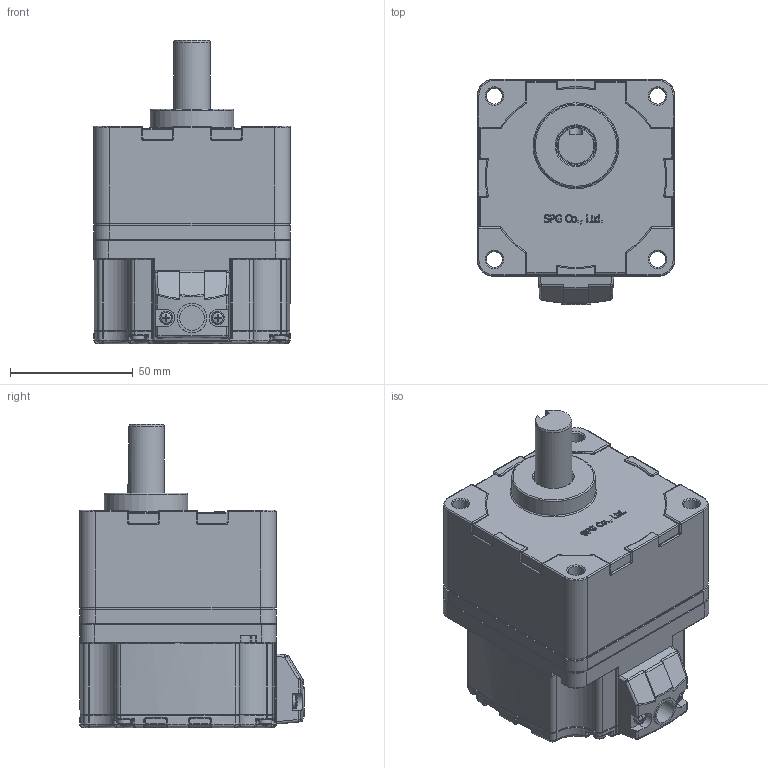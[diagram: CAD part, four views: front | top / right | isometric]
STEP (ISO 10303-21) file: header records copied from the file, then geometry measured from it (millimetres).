
FILE_DESCRIPTION((''),'2;1');
FILE_NAME('C:\Documents and Settings\Administrator\바탕 화면\BLDC 3D FILE\GEARED MOTOR\80-RATIO 30~100.stp','2014-06-19T16:07:15',('kdhkdh'),(''),'Autodesk Inventor 2011','Autodesk Inventor 2011','');
FILE_SCHEMA(('AUTOMOTIVE_DESIGN { 1 0 10303 214 1 1 1 1 }'));
Length unit declared in the file: millimetre
Products named in the file (1): 부품1
Bounding box: 80 x 91.5 x 123.5 mm (x, y, z)
Volume: 525724.6 mm3; surface area: 70653.1 mm2
Topology: 1 solids, 11 shells, 1291 faces, 3206 edges, 1912 vertices
Faces by surface type: cylinder 384, plane 356, bspline 243, torus 165, cone 93, sphere 50
Full cylindrical faces by diameter (mm): 2.729 x6, 3 x8, 3.5 x6, 4 x4, 4.3 x4, 5.3 x6, 5.72 x1, 6.5 x12, 7.5 x1, 8 x5, 10 x1, 12 x1, 15 x1, 16 x1, 18 x1, 34 x1, 61 x1, 73 x1, 77 x2
Entity records: 41506 total; most frequent: CARTESIAN_POINT 12979, ORIENTED_EDGE 5938, DIRECTION 5699, EDGE_CURVE 2969, AXIS2_PLACEMENT_3D 2291, VERTEX_POINT 1868, EDGE_LOOP 1484, FACE_OUTER_BOUND 1291
